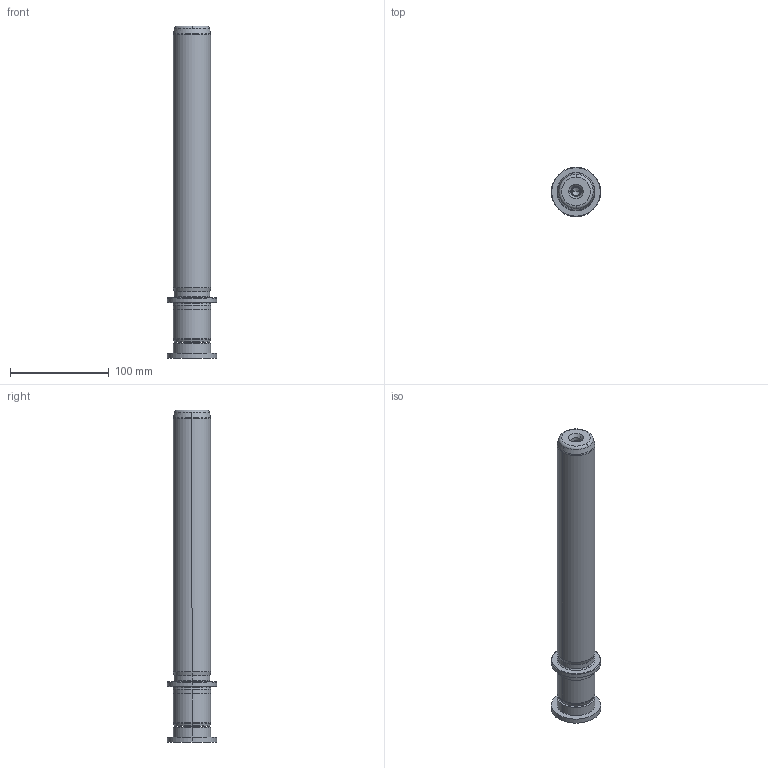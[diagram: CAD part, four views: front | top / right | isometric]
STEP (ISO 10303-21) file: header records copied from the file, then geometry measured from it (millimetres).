
FILE_DESCRIPTION((''),'2;1');
FILE_NAME('P22_038_280.stp','2009-02-16T09:17:23',(''),(''),'Mechanical Desktop 2009','Mechanical Desktop 2009',', , ');
FILE_SCHEMA(('CONFIG_CONTROL_DESIGN'));
Length unit declared in the file: millimetre
Products named in the file (2): Product; blmdl1
Assembly tree (1 placements, depth 2):
  Product
    blmdl1
Bounding box: 50 x 50 x 336 mm (x, y, z)
Volume: 382373 mm3; surface area: 51668.4 mm2
Topology: 3 solids, 3 shells, 99 faces, 237 edges, 149 vertices
Faces by surface type: cylinder 32, cone 28, plane 19, torus 10, bspline 10
Entity records: 3419 total; most frequent: CARTESIAN_POINT 923, DIRECTION 570, ORIENTED_EDGE 466, AXIS2_PLACEMENT_3D 246, EDGE_CURVE 233, CIRCLE 155, VERTEX_POINT 149, EDGE_LOOP 110
